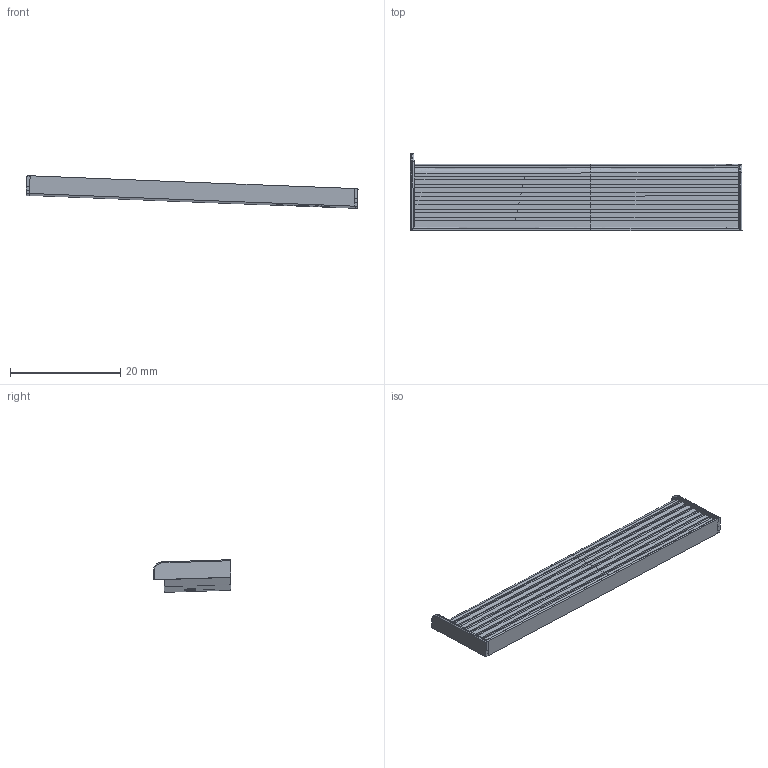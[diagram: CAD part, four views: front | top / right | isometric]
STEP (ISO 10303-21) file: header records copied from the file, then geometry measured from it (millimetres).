
FILE_DESCRIPTION(/* description */ ('','CAx-IF Rec.Pracs.---Representation and Presentation of Product Manufacturing Information (PMI)---4.0---2014-10-13'),/* implementation_level */ '2;1');
FILE_NAME(/* name */ '20elcothrottlecoveringa18666.step',/* time_stamp */ '2025-03-07T13:48:10+11:00',/* author */ (''),/* organization */ (''),/* preprocessor_version */ 'ST-DEVELOPER v20',/* originating_system */ 'Autodesk Translation Framework v13.20.0.188',/* authorisation */ '');
FILE_SCHEMA (('AP242_MANAGED_MODEL_BASED_3D_ENGINEERING_MIM_LF { 1 0 10303 442 1 1 4 }'));
Length unit declared in the file: millimetre
Products named in the file (1): Elco Throttle Deck Covering
Bounding box: 60.21 x 14.01 x 5.92 mm (x, y, z)
Volume: 1777.1 mm3; surface area: 2107 mm2
Topology: 1 solids, 1 shells, 287 faces, 802 edges, 531 vertices
Faces by surface type: bspline 197, plane 85, cylinder 5
Entity records: 15125 total; most frequent: CARTESIAN_POINT 9394, ORIENTED_EDGE 1602, EDGE_CURVE 801, B_SPLINE_CURVE_WITH_KNOTS 551, VERTEX_POINT 531, DIRECTION 440, EDGE_LOOP 302, FACE_OUTER_BOUND 287
